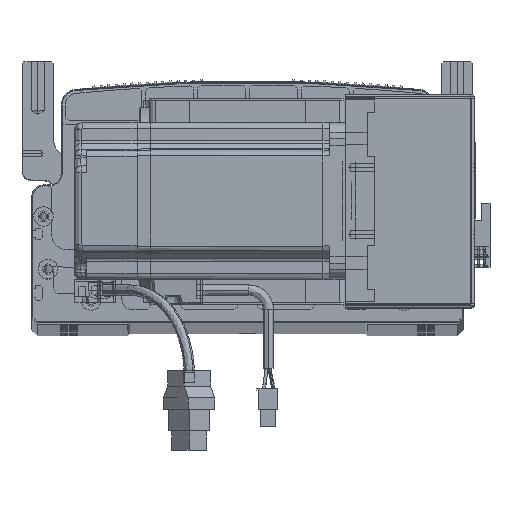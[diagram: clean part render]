
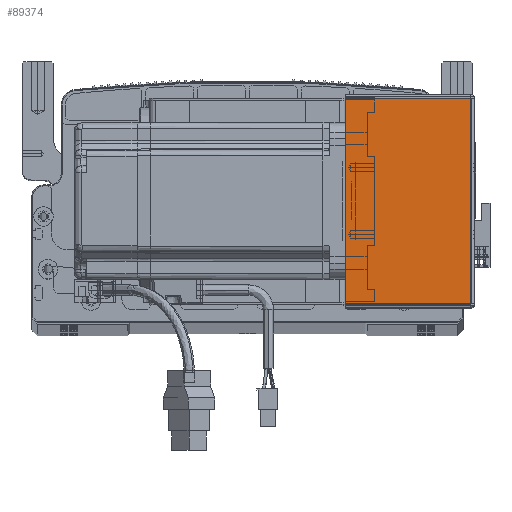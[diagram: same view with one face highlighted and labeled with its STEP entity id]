
A CAD part, top view. The second image highlights one B-rep face of the part: STEP entity #89374.
In plain terms, the highlighted planar face has unit normal (0, 0, 1) as drawn and (0, 0, -1) by its records, which use the part's own axes.
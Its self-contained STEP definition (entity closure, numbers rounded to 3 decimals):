
#4739 = CARTESIAN_POINT ( 'NONE',  ( 0., 0.707, -205.5 ) ) ;
#6343 = ORIENTED_EDGE ( 'NONE', *, *, #7995, .F. ) ;
#7995 = EDGE_CURVE ( 'NONE', #60819, #69249, #101297, .T. ) ;
#11147 = EDGE_LOOP ( 'NONE', ( #6343, #11822, #74251, #34843 ) ) ;
#11822 = ORIENTED_EDGE ( 'NONE', *, *, #37671, .T. ) ;
#12660 = EDGE_CURVE ( 'NONE', #69249, #66619, #51796, .T. ) ;
#24020 = DIRECTION ( 'NONE',  ( 0., -1., 0. ) ) ;
#30286 = AXIS2_PLACEMENT_3D ( 'NONE', #48469, #88300, #48810 ) ;
#32950 = PLANE ( 'NONE',  #30286 ) ;
#34843 = ORIENTED_EDGE ( 'NONE', *, *, #12660, .F. ) ;
#37671 = EDGE_CURVE ( 'NONE', #60819, #43341, #54756, .T. ) ;
#40191 = DIRECTION ( 'NONE',  ( 0., -1., 0. ) ) ;
#43341 = VERTEX_POINT ( 'NONE', #59440 ) ;
#45986 = VECTOR ( 'NONE', #40191, 1000. ) ;
#48469 = CARTESIAN_POINT ( 'NONE',  ( 0., 0., -205.5 ) ) ;
#48810 = DIRECTION ( 'NONE',  ( 1., 0., 0. ) ) ;
#50547 = CARTESIAN_POINT ( 'NONE',  ( 64.5, 0.707, -205.5 ) ) ;
#51796 = LINE ( 'NONE', #4739, #78750 ) ;
#52162 = CARTESIAN_POINT ( 'NONE',  ( 0., 105.293, -205.5 ) ) ;
#54756 = LINE ( 'NONE', #52162, #89115 ) ;
#55173 = CARTESIAN_POINT ( 'NONE',  ( 0.737, 105.293, -205.5 ) ) ;
#55404 = CARTESIAN_POINT ( 'NONE',  ( 0.737, 0.707, -205.5 ) ) ;
#59440 = CARTESIAN_POINT ( 'NONE',  ( 64.5, 105.293, -205.5 ) ) ;
#60713 = DIRECTION ( 'NONE',  ( 1., 0., 0. ) ) ;
#60819 = VERTEX_POINT ( 'NONE', #55173 ) ;
#66619 = VERTEX_POINT ( 'NONE', #50547 ) ;
#67935 = EDGE_CURVE ( 'NONE', #43341, #66619, #79907, .T. ) ;
#69249 = VERTEX_POINT ( 'NONE', #55404 ) ;
#69733 = FACE_OUTER_BOUND ( 'NONE', #11147, .T. ) ;
#74251 = ORIENTED_EDGE ( 'NONE', *, *, #67935, .T. ) ;
#78750 = VECTOR ( 'NONE', #83465, 1000. ) ;
#79083 = CARTESIAN_POINT ( 'NONE',  ( 0.737, 0., -205.5 ) ) ;
#79907 = LINE ( 'NONE', #101059, #88597 ) ;
#83465 = DIRECTION ( 'NONE',  ( 1., 0., 0. ) ) ;
#88300 = DIRECTION ( 'NONE',  ( 0., 0., 1. ) ) ;
#88597 = VECTOR ( 'NONE', #24020, 1000. ) ;
#89115 = VECTOR ( 'NONE', #60713, 1000. ) ;
#89374 = ADVANCED_FACE ( 'NONE', ( #69733 ), #32950, .F. ) ;
#101059 = CARTESIAN_POINT ( 'NONE',  ( 64.5, 0., -205.5 ) ) ;
#101297 = LINE ( 'NONE', #79083, #45986 ) ;
